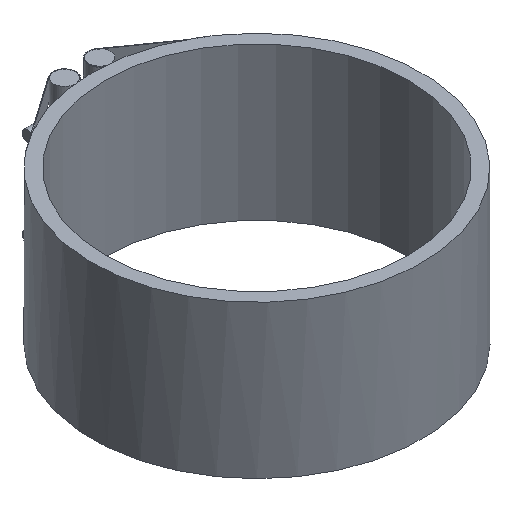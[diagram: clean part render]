
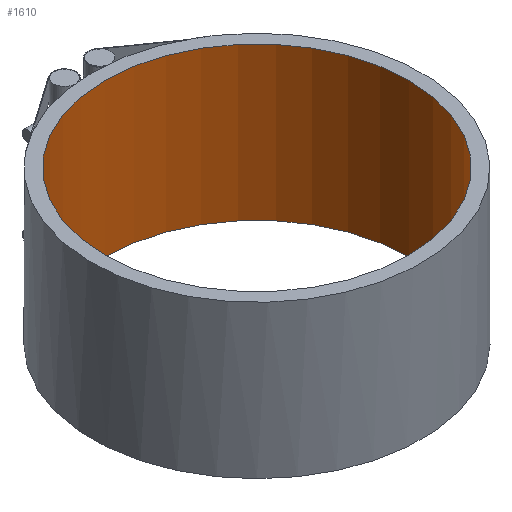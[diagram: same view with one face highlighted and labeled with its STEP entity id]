
A CAD part, isometric view. The second image highlights one B-rep face of the part: STEP entity #1610.
In plain terms, the highlighted cylindrical face has radius 140 mm (diameter 280 mm), a full revolution.
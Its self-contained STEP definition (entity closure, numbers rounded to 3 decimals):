
#364=CYLINDRICAL_SURFACE('',#1752,140.);
#418=FACE_BOUND('',#594,.T.);
#466=FACE_OUTER_BOUND('',#593,.T.);
#593=EDGE_LOOP('',(#1313));
#594=EDGE_LOOP('',(#1314));
#691=CIRCLE('',#1753,140.);
#692=CIRCLE('',#1754,140.);
#831=VERTEX_POINT('',#2856);
#832=VERTEX_POINT('',#2858);
#1007=EDGE_CURVE('',#831,#831,#691,.T.);
#1008=EDGE_CURVE('',#832,#832,#692,.T.);
#1313=ORIENTED_EDGE('',*,*,#1007,.F.);
#1314=ORIENTED_EDGE('',*,*,#1008,.F.);
#1610=ADVANCED_FACE('',(#466,#418),#364,.F.);
#1752=AXIS2_PLACEMENT_3D('',#2855,#2089,#2090);
#1753=AXIS2_PLACEMENT_3D('',#2857,#2091,#2092);
#1754=AXIS2_PLACEMENT_3D('',#2859,#2093,#2094);
#2089=DIRECTION('center_axis',(0.,0.,1.));
#2090=DIRECTION('ref_axis',(-1.,0.,0.));
#2091=DIRECTION('center_axis',(0.,0.,1.));
#2092=DIRECTION('ref_axis',(-1.,0.,0.));
#2093=DIRECTION('center_axis',(0.,0.,-1.));
#2094=DIRECTION('ref_axis',(-1.,0.,0.));
#2855=CARTESIAN_POINT('Origin',(0.,0.,0.));
#2856=CARTESIAN_POINT('',(140.,0.,-70.5));
#2857=CARTESIAN_POINT('Origin',(0.,0.,-70.5));
#2858=CARTESIAN_POINT('',(140.,0.,70.5));
#2859=CARTESIAN_POINT('Origin',(0.,0.,70.5));
